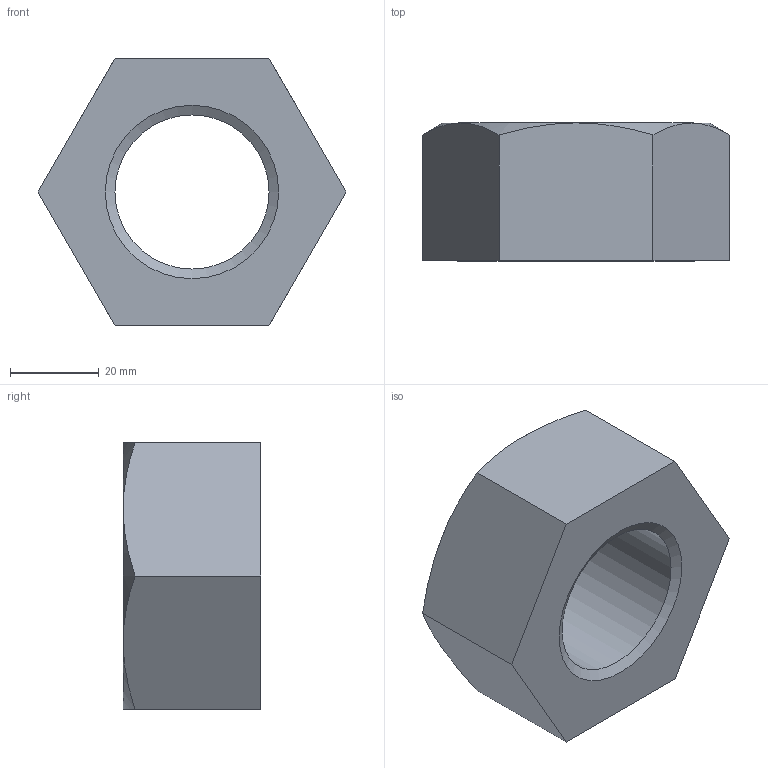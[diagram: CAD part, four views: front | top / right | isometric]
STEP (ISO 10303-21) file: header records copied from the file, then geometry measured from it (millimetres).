
FILE_DESCRIPTION(/* description */ (''),/* implementation_level */ '2;1');
FILE_NAME(/* name */ 'C:\Users\unitec\Desktop\ナット1種 中\M39.stp',/* time_stamp */ '2014-05-08T16:47:33+09:00',/* author */ ('unitec'),/* organization */ (''),/* preprocessor_version */ 'ST-DEVELOPER v15.2',/* originating_system */ 'Autodesk Inventor 2014',/* authorisation */ '');
FILE_SCHEMA (('AUTOMOTIVE_DESIGN { 1 0 10303 214 3 1 1 }'));
Length unit declared in the file: millimetre
Products named in the file (1): M39
Bounding box: 69.28 x 31 x 60 mm (x, y, z)
Volume: 66841.2 mm3; surface area: 13826.1 mm2
Topology: 1 solids, 1 shells, 17 faces, 37 edges, 22 vertices
Faces by surface type: cone 8, plane 8, cylinder 1
Full cylindrical faces by diameter (mm): 34.67 x1
Entity records: 455 total; most frequent: CARTESIAN_POINT 98, ORIENTED_EDGE 68, DIRECTION 68, EDGE_CURVE 34, AXIS2_PLACEMENT_3D 28, EDGE_LOOP 22, VERTEX_POINT 22, ADVANCED_FACE 17
